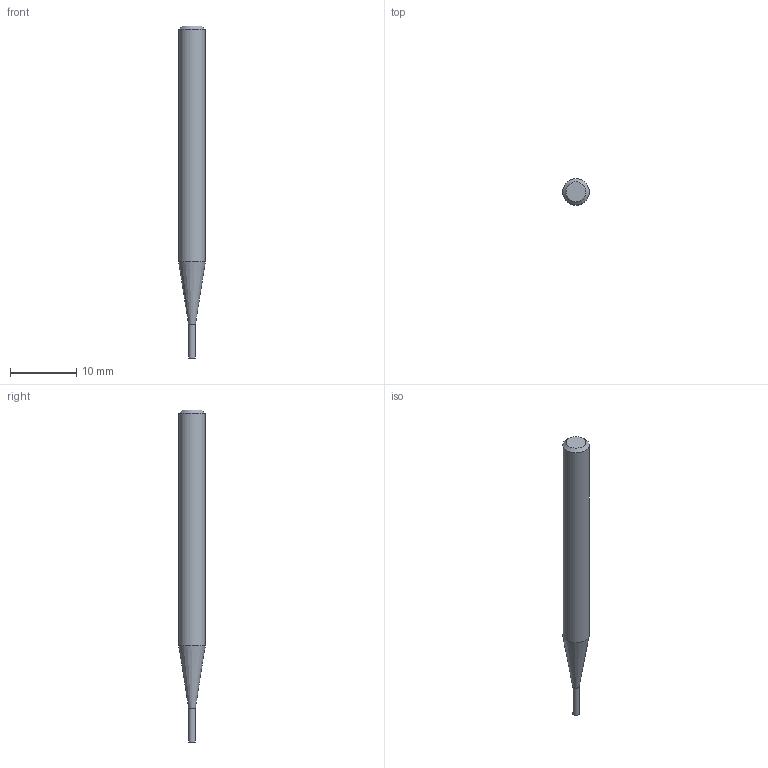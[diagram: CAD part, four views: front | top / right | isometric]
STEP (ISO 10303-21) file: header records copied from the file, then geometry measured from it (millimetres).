
FILE_DESCRIPTION((''),'2;1');
FILE_NAME('C:\Users\nsx150\Desktop\RSE230_20210427\01-00644-01001 RSE230 D1X5.step','2021-05-07T14:53:11',(''),(''),'STEP Write','Mastercam 2021 ... CNC Software, Inc.','');
FILE_SCHEMA(('AUTOMOTIVE_DESIGN'));
Length unit declared in the file: millimetre
Products named in the file (1): None
Bounding box: 4 x 4 x 50 mm (x, y, z)
Volume: 501 mm3; surface area: 548.4 mm2
Topology: 2 solids, 2 shells, 8 faces, 10 edges, 6 vertices
Faces by surface type: plane 4, cylinder 2, cone 2
Full cylindrical faces by diameter (mm): 1 x1, 4 x1
Entity records: 190 total; most frequent: DIRECTION 32, CARTESIAN_POINT 22, AXIS2_PLACEMENT_3D 16, ORIENTED_EDGE 12, EDGE_LOOP 12, STYLED_ITEM 11, ADVANCED_FACE 8, VERTEX_POINT 6
